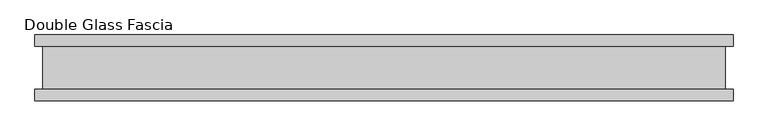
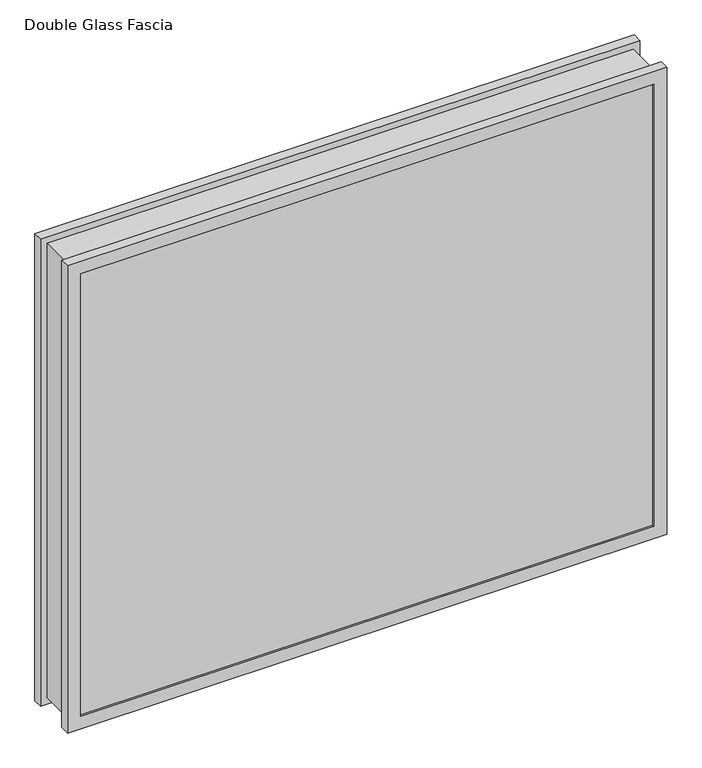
"""IFC4 building model written with IfcOpenShell, lengths in millimetres: proxy geometry, Glass_Fascia-Teknion-FHSG2-Double_Square_Corner-R2022 : Double Glass Fascia."""

from ifc_helpers import new_model, si_unit, frame, origin, place, context, project, spatial, polyline, outline, extrude, faceted_brep, source, transform, mapped, element, save


def double_glass_fascia_f94bbd22(model_context):
    return source(origin(), model_context, "Body", "SolidModel", [
        faceted_brep([(519.6640848, 32.4352299, 866.775885), (519.6640848, -32.4352299, 866.775885), (519.6640848, -32.4352299, 15.0359151), (519.6640848, 32.4352299, 15.0359151), (-519.6640848, -32.4352299, 15.0359151), (-519.6640848, 32.4352299, 15.0359151), (-519.6640848, -32.4352299, 866.775885), (-519.6640848, 32.4352299, 866.775885), (508.4871999, -38.8962152, 855.5990001), (508.4871999, 38.8962152, 855.5990001), (508.4871999, 38.8962152, 26.2128), (508.4871999, -38.8962152, 26.2128), (525.2218392, -47.1322551, 872.3336393), (525.2218392, -38.8962152, 872.3336393), (525.2218392, -38.8962152, 9.4781608), (525.2218392, -47.1322551, 9.4781608), (508.3093999, -50.0558594, 855.4212001), (508.3093999, -47.1322551, 855.4212001), (508.3093999, -47.1322551, 26.3906), (508.3093999, -50.0558594, 26.3906), (531.5249999, -32.4352299, 878.6368001), (531.5249999, -50.0558594, 878.6368001), (531.5249999, -50.0558594, 3.175), (531.5249999, -32.4352299, 3.175), (-508.4871999, 38.8962152, 26.2128), (-508.4871999, -38.8962152, 26.2128), (-525.2218392, -38.8962152, 9.4781608), (-525.2218392, -47.1322551, 9.4781608), (-508.3093999, -47.1322551, 26.3906), (-508.3093999, -50.0558594, 26.3906), (-531.5249999, -50.0558594, 3.175), (-531.5249999, -32.4352299, 3.175), (-508.4871999, 38.8962152, 855.5990001), (-508.4871999, -38.8962152, 855.5990001), (-525.2218392, -38.8962152, 872.3336393), (-525.2218392, -47.1322551, 872.3336393), (-508.3093999, -47.1322551, 855.4212001), (-508.3093999, -50.0558594, 855.4212001), (-531.5249999, -50.0558594, 878.6368001), (-531.5249999, -32.4352299, 878.6368001), (531.5249999, 50.0558594, 878.6368001), (531.5249999, 32.4352299, 878.6368001), (531.5249999, 32.4352299, 3.175), (531.5249999, 50.0558594, 3.175), (508.4871999, 47.1322551, 855.5990001), (508.4871999, 50.0558594, 855.5990001), (508.4871999, 50.0558594, 26.2128), (508.4871999, 47.1322551, 26.2128), (525.2218392, 38.8962152, 872.3336393), (525.2218392, 47.1322551, 872.3336393), (525.2218392, 47.1322551, 9.4781608), (525.2218392, 38.8962152, 9.4781608), (-531.5249999, 32.4352299, 3.175), (-531.5249999, 50.0558594, 3.175), (-508.4871999, 50.0558594, 26.2128), (-508.4871999, 47.1322551, 26.2128), (-525.2218392, 47.1322551, 9.4781608), (-525.2218392, 38.8962152, 9.4781608), (-531.5249999, 32.4352299, 878.6368001), (-531.5249999, 50.0558594, 878.6368001), (-508.4871999, 50.0558594, 855.5990001), (-508.4871999, 47.1322551, 855.5990001), (-525.2218392, 47.1322551, 872.3336393), (-525.2218392, 38.8962152, 872.3336393)], [[[0, 1, 2, 3]], [[3, 2, 4, 5]], [[5, 4, 6, 7]], [[7, 6, 1, 0]], [[8, 9, 10, 11]], [[12, 13, 14, 15]], [[16, 17, 18, 19]], [[20, 21, 22, 23]], [[11, 10, 24, 25]], [[15, 14, 26, 27]], [[19, 18, 28, 29]], [[23, 22, 30, 31]], [[25, 24, 32, 33]], [[27, 26, 34, 35]], [[29, 28, 36, 37]], [[31, 30, 38, 39]], [[33, 32, 9, 8]], [[13, 34, 26, 14], [11, 25, 33, 8]], [[35, 34, 13, 12]], [[15, 27, 35, 12], [17, 36, 28, 18]], [[37, 36, 17, 16]], [[21, 38, 30, 22], [19, 29, 37, 16]], [[39, 38, 21, 20]], [[23, 31, 39, 20], [1, 6, 4, 2]], [[40, 41, 42, 43]], [[44, 45, 46, 47]], [[48, 49, 50, 51]], [[43, 42, 52, 53]], [[47, 46, 54, 55]], [[51, 50, 56, 57]], [[53, 52, 58, 59]], [[55, 54, 60, 61]], [[57, 56, 62, 63]], [[41, 58, 52, 42], [3, 5, 7, 0]], [[59, 58, 41, 40]], [[43, 53, 59, 40], [45, 60, 54, 46]], [[61, 60, 45, 44]], [[49, 62, 56, 50], [47, 55, 61, 44]], [[63, 62, 49, 48]], [[51, 57, 63, 48], [9, 32, 24, 10]]]),
        extrude(outline(polyline([(520.7, -40.9277344), (520.7, -46.8808594), (-520.7, -46.8808594), (-520.7, -40.9277344), (520.7, -40.9277344)])), frame((0.0, 0.0, 5.3275263), z_axis=(0.0, 0.0, 1.0), x_axis=(1.0, 0.0, 0.0)), (0.0, 0.0, 1.0), 870.6627281),
        extrude(outline(polyline([(520.7, 41.1791301), (-520.7, 41.1791301), (-520.7, 47.1322551), (520.7, 47.1322551), (520.7, 41.1791301)])), frame((0.0, 0.0, 5.3275263), z_axis=(0.0, 0.0, 1.0), x_axis=(1.0, 0.0, 0.0)), (0.0, 0.0, 1.0), 870.6627281),
    ])


if __name__ == "__main__":
    model = new_model("IFC4")
    model_context = context("Model", 3, world=origin())
    ifc_project = project(units=[si_unit("LENGTHUNIT", "METRE", prefix="MILLI")], contexts=[model_context])
    site = spatial("IfcSite", under=ifc_project)
    building = spatial("IfcBuilding", under=site)
    placement = place(None, origin())
    double_glass_fascia_shape = double_glass_fascia_f94bbd22(model_context)
    element("IfcBuildingElementProxy", 1, Name="Glass_Fascia-Teknion-FHSG2-Double_Square_Corner-R2022 : Double Glass Fascia", ObjectType="Glass_Fascia-Teknion-FHSG2-Double_Square_Corner-R2022 : Double Glass Fascia", at=placement, inside=building, context=model_context, shape_type="MappedRepresentation", body=[
        mapped(double_glass_fascia_shape, transform((0.0, 0.0, 0.0), x_axis=(1.0, 0.0, 0.0), y_axis=(0.0, 1.0, 0.0), z_axis=(0.0, 0.0, 1.0))),
    ])
    save(model, "model.ifc")
